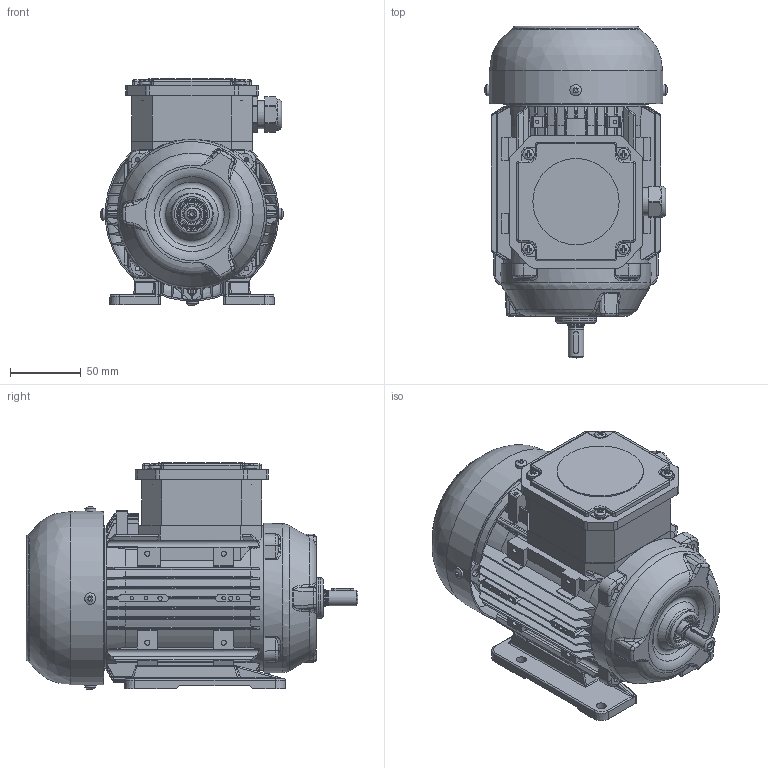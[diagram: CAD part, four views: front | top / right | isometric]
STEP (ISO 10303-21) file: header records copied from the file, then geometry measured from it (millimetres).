
FILE_DESCRIPTION(/* description */ (''),/* implementation_level */ '2;1');
FILE_NAME(/* name */ 'OUTLOOK VIEW QH63 KT B3 SPL.stp',/* time_stamp */ '2021-09-21T11:12:30+03:00',/* author */ (''),/* organization */ (''),/* preprocessor_version */ 'ST-DEVELOPER v16',/* originating_system */ 'SIEMENS PLM Software NX 11.0',/* authorisation */ '');
FILE_SCHEMA (('AUTOMOTIVE_DESIGN { 1 0 10303 214 3 1 1 1 }'));
Products named in the file (1): 260652D491E0rvcv
Bounding box: 129.21 x 234.84 x 160.6 mm (x, y, z)
Volume: 580666.7 mm3; surface area: 387262.4 mm2
Topology: 41 solids, 43 shells, 2922 faces, 7586 edges, 4754 vertices
Faces by surface type: plane 1189, cylinder 976, bspline 329, cone 226, torus 118, sphere 67, extrusion 17
Full cylindrical faces by diameter (mm): 1.7 x2, 2.5 x12, 3 x4, 3.15 x1, 3.3 x10, 3.65 x14, 4 x9, 4.3 x1, 4.5 x4, 4.65 x4, 4.8 x4, 5 x4, 5.1 x1, 5.5 x1, 8 x9, 10.4 x1, 11 x2, 11.4 x2, 11.5 x1, 12 x5, 12.2 x1, 12.5 x1, 13 x1, 14.5 x1, 15.5 x2, 18 x1, 18.45 x8, 18.5 x1, 18.9 x1, 19.1 x2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
Entity records: 99282 total; most frequent: CARTESIAN_POINT 27097, ORIENTED_EDGE 14104, DIRECTION 13569, EDGE_CURVE 7052, AXIS2_PLACEMENT_3D 5165, VERTEX_POINT 4661, EDGE_LOOP 3533, VECTOR 3239
